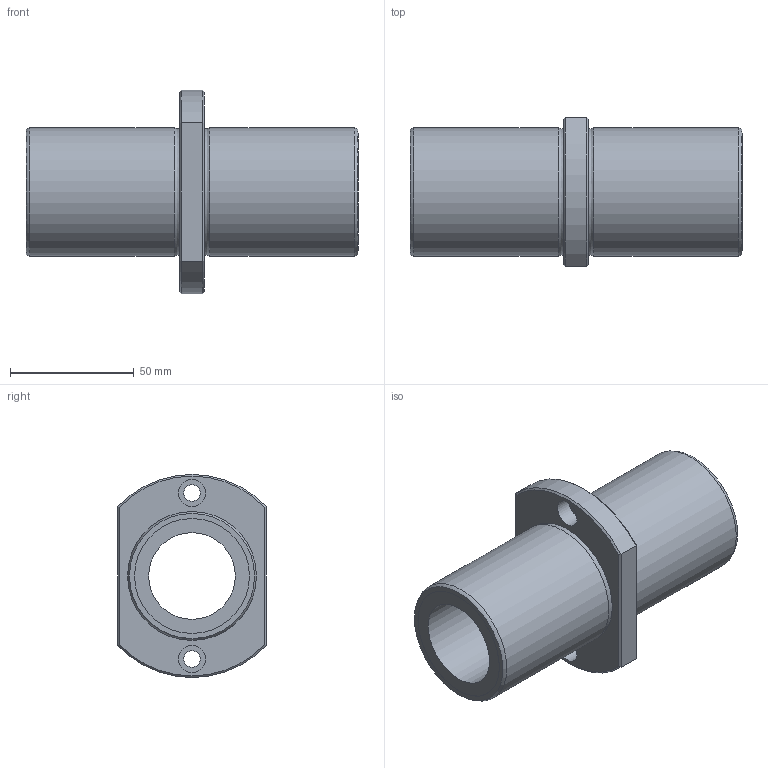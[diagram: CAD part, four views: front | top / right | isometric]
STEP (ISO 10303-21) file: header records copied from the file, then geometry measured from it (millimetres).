
FILE_DESCRIPTION((''),'2;1');
FILE_NAME('D:\製品 (図面)\カタログ用3D\リニアベアリング関連\STEP形式\LFDTC\LFDTC35.stp','2010-06-04T08:42:26',('Tsuchiya'),(''),'Autodesk Inventor 10','Autodesk Inventor 10','');
FILE_SCHEMA(('AUTOMOTIVE_DESIGN { 1 0 10303 214 1 1 1 1 }'));
Length unit declared in the file: millimetre
Products named in the file (1): LFDTC35
Bounding box: 134 x 60 x 82 mm (x, y, z)
Volume: 176615 mm3; surface area: 44611.1 mm2
Topology: 1 solids, 1 shells, 33 faces, 63 edges, 38 vertices
Faces by surface type: plane 14, cylinder 11, cone 4, torus 2, bspline 2
Full cylindrical faces by diameter (mm): 6.6 x2, 11 x2, 35 x1, 46.4 x2, 52 x2
Entity records: 925 total; most frequent: CARTESIAN_POINT 270, DIRECTION 136, ORIENTED_EDGE 100, AXIS2_PLACEMENT_3D 62, EDGE_LOOP 58, EDGE_CURVE 50, VERTEX_POINT 38, FACE_OUTER_BOUND 33
